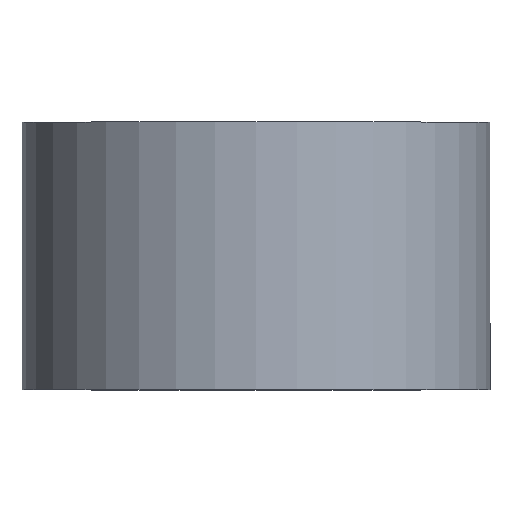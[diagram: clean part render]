
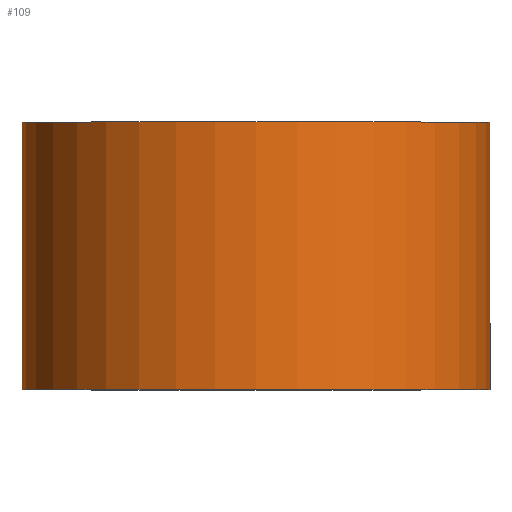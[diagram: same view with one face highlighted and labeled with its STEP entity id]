
A CAD part, top view. The second image highlights one B-rep face of the part: STEP entity #109.
In plain terms, the highlighted cylindrical face has radius 17.5 mm (diameter 35 mm), a partial arc.
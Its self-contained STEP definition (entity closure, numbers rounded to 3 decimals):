
#2 = ORIENTED_EDGE ( 'NONE', *, *, #22, .F. ) ;
#3 = CARTESIAN_POINT ( 'NONE',  ( 0., 0., 0. ) ) ;
#14 = VERTEX_POINT ( 'NONE', #252 ) ;
#22 = EDGE_CURVE ( 'NONE', #91, #14, #295, .T. ) ;
#25 = DIRECTION ( 'NONE',  ( 0., 1., 0. ) ) ;
#53 = EDGE_CURVE ( 'NONE', #200, #91, #90, .T. ) ;
#68 = DIRECTION ( 'NONE',  ( -1., 0., 0. ) ) ;
#71 = CARTESIAN_POINT ( 'NONE',  ( 17.5, 0., 0. ) ) ;
#90 = LINE ( 'NONE', #93, #279 ) ;
#91 = VERTEX_POINT ( 'NONE', #254 ) ;
#93 = CARTESIAN_POINT ( 'NONE',  ( -17.5, 0., 0. ) ) ;
#109 = ADVANCED_FACE ( 'NONE', ( #247 ), #301, .T. ) ;
#110 = CIRCLE ( 'NONE', #240, 17.5 ) ;
#118 = EDGE_CURVE ( 'NONE', #224, #14, #291, .T. ) ;
#123 = AXIS2_PLACEMENT_3D ( 'NONE', #206, #260, #68 ) ;
#148 = DIRECTION ( 'NONE',  ( 0., 1., 0. ) ) ;
#152 = CARTESIAN_POINT ( 'NONE',  ( 0., 0., 0. ) ) ;
#158 = EDGE_LOOP ( 'NONE', ( #296, #251, #2, #207 ) ) ;
#162 = DIRECTION ( 'NONE',  ( 0., 1., 0. ) ) ;
#190 = DIRECTION ( 'NONE',  ( -1., 0., 0. ) ) ;
#196 = DIRECTION ( 'NONE',  ( 0., 1., 0. ) ) ;
#200 = VERTEX_POINT ( 'NONE', #268 ) ;
#206 = CARTESIAN_POINT ( 'NONE',  ( 0., 20., 0. ) ) ;
#207 = ORIENTED_EDGE ( 'NONE', *, *, #53, .F. ) ;
#209 = AXIS2_PLACEMENT_3D ( 'NONE', #152, #196, #284 ) ;
#224 = VERTEX_POINT ( 'NONE', #245 ) ;
#227 = VECTOR ( 'NONE', #148, 1000. ) ;
#240 = AXIS2_PLACEMENT_3D ( 'NONE', #3, #25, #190 ) ;
#245 = CARTESIAN_POINT ( 'NONE',  ( 17.5, 0., 0. ) ) ;
#247 = FACE_OUTER_BOUND ( 'NONE', #158, .T. ) ;
#251 = ORIENTED_EDGE ( 'NONE', *, *, #118, .T. ) ;
#252 = CARTESIAN_POINT ( 'NONE',  ( 17.5, 20., 0. ) ) ;
#254 = CARTESIAN_POINT ( 'NONE',  ( -17.5, 20., 0. ) ) ;
#260 = DIRECTION ( 'NONE',  ( 0., 1., 0. ) ) ;
#268 = CARTESIAN_POINT ( 'NONE',  ( -17.5, 0., 0. ) ) ;
#279 = VECTOR ( 'NONE', #162, 1000. ) ;
#281 = EDGE_CURVE ( 'NONE', #200, #224, #110, .T. ) ;
#284 = DIRECTION ( 'NONE',  ( -1., 0., 0. ) ) ;
#291 = LINE ( 'NONE', #71, #227 ) ;
#295 = CIRCLE ( 'NONE', #123, 17.5 ) ;
#296 = ORIENTED_EDGE ( 'NONE', *, *, #281, .T. ) ;
#301 = CYLINDRICAL_SURFACE ( 'NONE', #209, 17.5 ) ;
